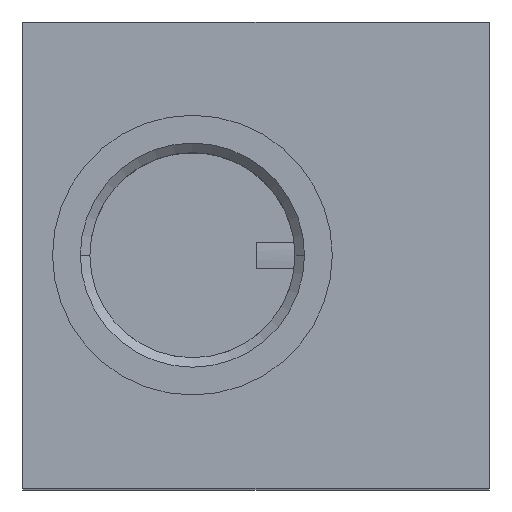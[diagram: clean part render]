
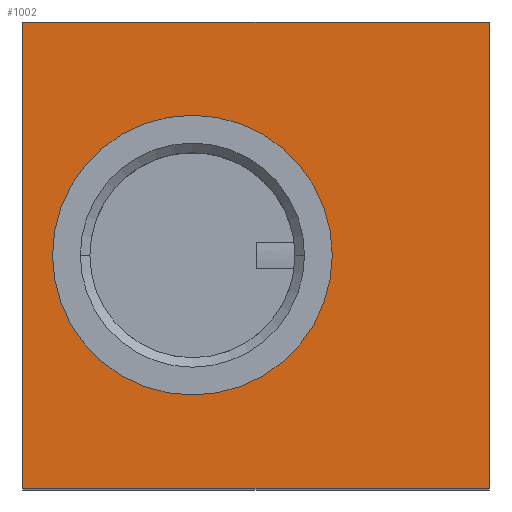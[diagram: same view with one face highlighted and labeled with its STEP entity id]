
A CAD part, top view. The second image highlights one B-rep face of the part: STEP entity #1002.
In plain terms, the highlighted planar face has unit normal (0, 0, 1).
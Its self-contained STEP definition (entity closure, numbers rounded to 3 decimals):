
#287=DIRECTION('',(1.,0.,0.));
#288=VECTOR('',#287,55.);
#289=CARTESIAN_POINT('',(-27.5,27.5,120.));
#290=LINE('',#289,#288);
#294=DIRECTION('',(0.,-1.,0.));
#295=VECTOR('',#294,55.);
#296=CARTESIAN_POINT('',(27.5,27.5,120.));
#297=LINE('',#296,#295);
#301=DIRECTION('',(-1.,0.,0.));
#302=VECTOR('',#301,55.);
#303=CARTESIAN_POINT('',(27.5,-27.5,120.));
#304=LINE('',#303,#302);
#308=DIRECTION('',(0.,1.,0.));
#309=VECTOR('',#308,55.);
#310=CARTESIAN_POINT('',(-27.5,-27.5,120.));
#311=LINE('',#310,#309);
#315=CARTESIAN_POINT('',(-7.5,0.,120.));
#316=DIRECTION('',(0.,0.,1.));
#317=DIRECTION('',(-1.,0.,0.));
#318=AXIS2_PLACEMENT_3D('',#315,#316,#317);
#323=CARTESIAN_POINT('',(-7.5,0.,120.));
#324=DIRECTION('',(0.,0.,1.));
#325=DIRECTION('',(1.,0.,0.));
#326=AXIS2_PLACEMENT_3D('',#323,#324,#325);
#696=CARTESIAN_POINT('',(-27.5,27.5,120.));
#697=VERTEX_POINT('',#696);
#698=CARTESIAN_POINT('',(-27.5,-27.5,120.));
#699=VERTEX_POINT('',#698);
#726=CARTESIAN_POINT('',(-24.,0.,120.));
#727=CARTESIAN_POINT('',(9.,0.,120.));
#728=VERTEX_POINT('',#726);
#729=VERTEX_POINT('',#727);
#730=CARTESIAN_POINT('',(27.5,27.5,120.));
#731=VERTEX_POINT('',#730);
#732=CARTESIAN_POINT('',(27.5,-27.5,120.));
#733=VERTEX_POINT('',#732);
#985=CARTESIAN_POINT('',(0.,0.,120.));
#986=DIRECTION('',(0.,0.,1.));
#987=DIRECTION('',(1.,0.,0.));
#988=AXIS2_PLACEMENT_3D('',#985,#986,#987);
#989=PLANE('',#988);
#990=ORIENTED_EDGE('',*,*,#934,.T.);
#991=ORIENTED_EDGE('',*,*,#960,.T.);
#992=ORIENTED_EDGE('',*,*,#979,.T.);
#993=ORIENTED_EDGE('',*,*,#817,.T.);
#994=EDGE_LOOP('',(#990,#991,#992,#993));
#995=FACE_OUTER_BOUND('',#994,.F.);
#997=ORIENTED_EDGE('',*,*,#996,.T.);
#999=ORIENTED_EDGE('',*,*,#998,.T.);
#1000=EDGE_LOOP('',(#997,#999));
#1001=FACE_BOUND('',#1000,.F.);
#319=CIRCLE('',#318,16.5);
#327=CIRCLE('',#326,16.5);
#817=EDGE_CURVE('',#699,#697,#311,.T.);
#934=EDGE_CURVE('',#697,#731,#290,.T.);
#960=EDGE_CURVE('',#731,#733,#297,.T.);
#979=EDGE_CURVE('',#733,#699,#304,.T.);
#996=EDGE_CURVE('',#728,#729,#319,.T.);
#998=EDGE_CURVE('',#729,#728,#327,.T.);
#1002=ADVANCED_FACE('',(#995,#1001),#989,.T.);
